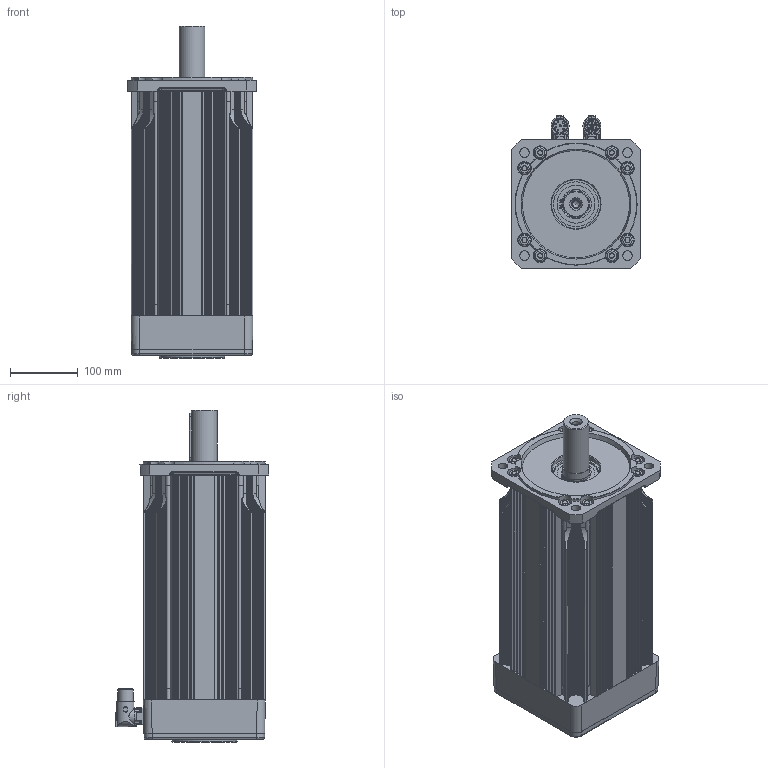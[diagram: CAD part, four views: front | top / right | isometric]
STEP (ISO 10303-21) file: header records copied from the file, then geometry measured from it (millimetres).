
FILE_DESCRIPTION( ( 'Unknown' ), '1' );
FILE_NAME( 'C:/Users/carpi/Desktop/step/Q00840_35.stp', 'Unknown', ( 'Unknown' ), ( 'Unknown' ), 'PSStep 14.0', 'Unknown', ' ' );
FILE_SCHEMA( ( 'AUTOMOTIVE_DESIGN { 1 0 10303 214 1 1 1 1 }' ) );
Length unit declared in the file: millimetre
Products named in the file (35): Assem1; N33801; CUSC_40_90_23_6308_ZZ; N09815; A-Ela 40 P; N11800; DEFDB M  8; DEFDB M  8-oa0; DEFDB M  8-oa1; DEFDB M  8-oa2; DEFDB M  8-oa3; DEFDB M  8-oa4; DEFDB M  8-oa5; DEFDB M  8-oa6; Vite a brugola testa cil 8,8 -  M 2,5 x 8; Vite a brugola testa cil 8,8 -  M  5 x 16; CN M23 PAN-SEG AEDC 139 17 pin 90°o SpTcR; CN M23 PAN-POT BEDC 110 4+4 pin 90°o SpTcR; LI-PIA  10x8 x 70; N49800_360; N49800_360-oa7; N49800_360-oa8; N49800_360-oa9; N49800_360-oa10; N49800_360-oa11; N49800_360-oa12; N49800_360-oa13; N01811; N25800_L332
Assembly tree (44 placements, depth 2):
  Assem1
    N33801
    CUSC_40_90_23_6308_ZZ
    CUSC_40_90_23_6308_ZZ
    CUSC_40_90_23_6308_ZZ
    CUSC_40_90_23_6308_ZZ
    CUSC_40_90_23_6308_ZZ
    CUSC_40_90_23_6308_ZZ
    CUSC_40_90_23_6308_ZZ
    N09815
    A-Ela 40 P
    N11800
    DEFDB M  8
    DEFDB M  8-oa0
    DEFDB M  8-oa1
    DEFDB M  8-oa2
    DEFDB M  8-oa3
    DEFDB M  8-oa4
    DEFDB M  8-oa5
    DEFDB M  8-oa6
    Vite a brugola testa cil 8,8 -  M 2,5 x 8  x8
    Vite a brugola testa cil 8,8 -  M  5 x 16  x4
    CN M23 PAN-SEG AEDC 139 17 pin 90°o SpTcR
    CN M23 PAN-POT BEDC 110 4+4 pin 90°o SpTcR
    LI-PIA  10x8 x 70
    N49800_360
    N49800_360-oa7
    N49800_360-oa8
    N49800_360-oa9
    N49800_360-oa10
    N49800_360-oa11
    N49800_360-oa12
    N49800_360-oa13
    N01811
    N25800_L332
Bounding box: 189.97 x 226.43 x 490 mm (x, y, z)
Volume: 4420298.1 mm3; surface area: 1248258 mm2
Topology: 44 solids, 45 shells, 2234 faces, 5656 edges, 3572 vertices
Faces by surface type: cylinder 1035, plane 667, bspline 201, cone 142, torus 107, sphere 82
Full cylindrical faces by diameter (mm): 2 x21, 2.013 x8, 2.5 x10, 2.7 x8, 3 x4, 3.242 x1, 3.3 x5, 4.2 x4, 4.7 x8, 5 x8, 5.5 x4, 6.647 x4, 6.8 x8, 7.8 x8, 8 x25, 8.5 x12, 10 x4, 10.106 x2, 13 x1, 14 x4, 17 x2, 17.9 x8, 19.8 x2, 20 x11, 21.3 x2, 23 x2, 24.5 x2, 30 x1, 37.5 x1, 38 x1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
Entity records: 91384 total; most frequent: CARTESIAN_POINT 31401, DIRECTION 9981, ORIENTED_EDGE 9738, EDGE_CURVE 4869, AXIS2_PLACEMENT_3D 4094, VERTEX_POINT 3266, EDGE_LOOP 2564, FACE_OUTER_BOUND 2294
